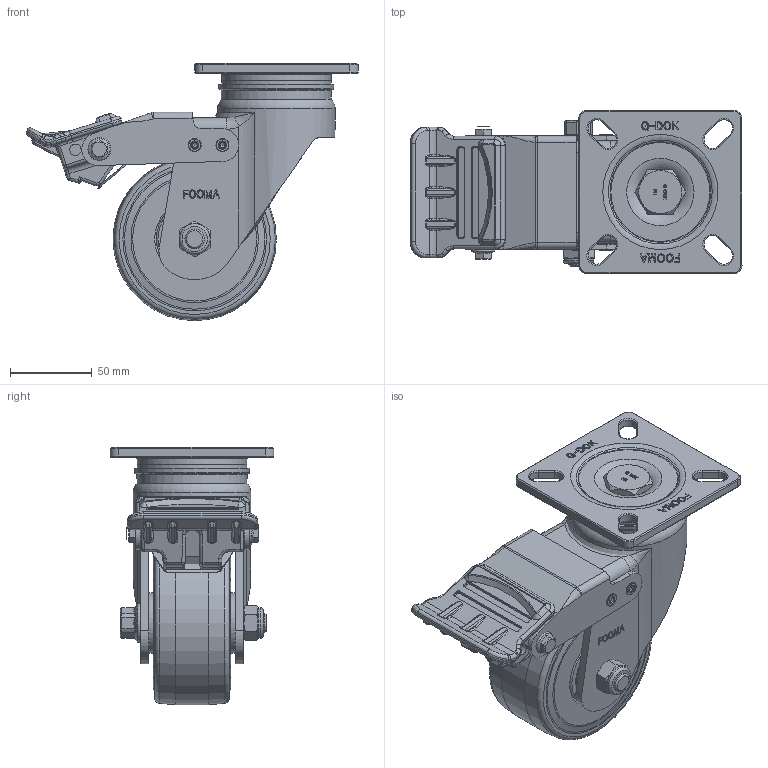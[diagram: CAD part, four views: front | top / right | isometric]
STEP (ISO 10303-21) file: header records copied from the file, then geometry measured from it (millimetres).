
FILE_DESCRIPTION(/* description */ (''),/* implementation_level */ '2;1');
FILE_NAME(/* name */ '\\192.168.10.38\지덕공유\1.기술연구소\1.도면\제품도면\1.양산품\10.PH-SERIES-OK\작성중\PH,PHS,GH-100-BSF _ 브레이크 부분 변경(130브라켓)관련 도면 모음(2D, 3D)\영업부전달_20230630\PHS-100-BSF-MCD-R01.stp',/* time_stamp */ '2023-06-30T17:49:41+09:00',/* author */ ('admin'),/* organization */ (''),/* preprocessor_version */ 'ST-DEVELOPER v18.1',/* originating_system */ 'Autodesk Inventor 2021',/* authorisation */ '');
FILE_SCHEMA (('AUTOMOTIVE_DESIGN { 1 0 10303 214 3 1 1 }'));
Length unit declared in the file: millimetre
Products named in the file (1): PHS-100-BSF-MCD-R01_Shrinkwrap_1
Bounding box: 203.29 x 100 x 157.54 mm (x, y, z)
Volume: 760004.4 mm3; surface area: 139023.9 mm2
Topology: 1 solids, 5 shells, 1440 faces, 3699 edges, 2306 vertices
Faces by surface type: plane 545, cylinder 348, bspline 322, torus 127, cone 68, sphere 30
Full cylindrical faces by diameter (mm): 4 x4, 4.917 x1, 6 x4, 6.1 x8, 6.5 x2, 7 x2, 8 x4, 9.8 x1, 12 x2, 14.5 x1, 15 x1, 15.2 x2, 18 x1, 18.5 x1, 35 x1, 37 x2, 38 x1, 38.36 x4, 47 x4, 54.004 x1, 67.006 x2, 67.2 x1, 71.999 x1, 100 x1
Entity records: 49576 total; most frequent: CARTESIAN_POINT 14594, ORIENTED_EDGE 7336, DIRECTION 6393, EDGE_CURVE 3668, VERTEX_POINT 2296, AXIS2_PLACEMENT_3D 2270, LINE 1853, VECTOR 1853
